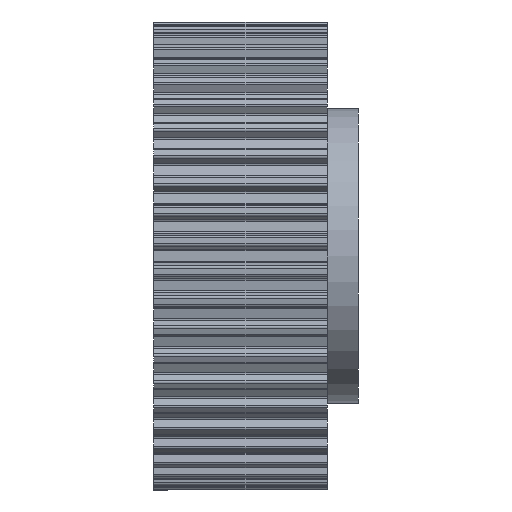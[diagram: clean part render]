
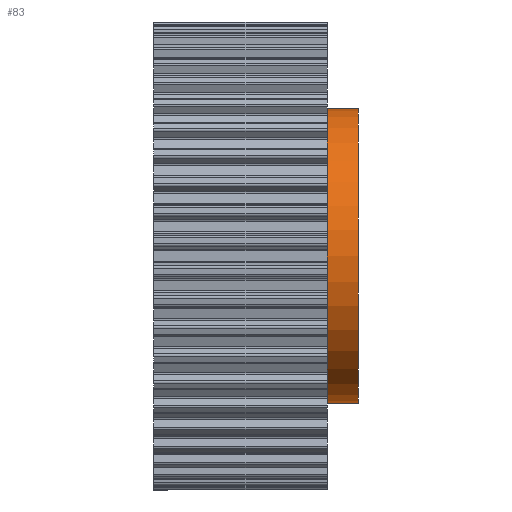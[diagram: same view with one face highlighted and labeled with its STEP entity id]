
A CAD part, front view. The second image highlights one B-rep face of the part: STEP entity #83.
In plain terms, the highlighted cylindrical face has radius 47.5 mm (diameter 95 mm), a full revolution.
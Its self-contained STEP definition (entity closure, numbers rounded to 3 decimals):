
#83 = ADVANCED_FACE( '', ( #485, #486 ), #487, .T. );
#485 = FACE_OUTER_BOUND( '', #1268, .T. );
#486 = FACE_OUTER_BOUND( '', #1269, .T. );
#487 = CYLINDRICAL_SURFACE( '', #1270, 47.5 );
#1268 = EDGE_LOOP( '', ( #2845 ) );
#1269 = EDGE_LOOP( '', ( #2846 ) );
#1270 = AXIS2_PLACEMENT_3D( '', #2847, #2848, #2849 );
#2845 = ORIENTED_EDGE( '', *, *, #6284, .T. );
#2846 = ORIENTED_EDGE( '', *, *, #6286, .F. );
#2847 = CARTESIAN_POINT( '', ( 66., 0., 0. ) );
#2848 = DIRECTION( '', ( -1., 0., 0. ) );
#2849 = DIRECTION( '', ( 0., 0., -1. ) );
#6284 = EDGE_CURVE( '', #8209, #8209, #8210, .T. );
#6286 = EDGE_CURVE( '', #8213, #8213, #8214, .T. );
#8209 = VERTEX_POINT( '', #10430 );
#8210 = CIRCLE( '', #10431, 47.5 );
#8213 = VERTEX_POINT( '', #10434 );
#8214 = CIRCLE( '', #10435, 47.5 );
#10430 = CARTESIAN_POINT( '', ( 56., 0., -47.5 ) );
#10431 = AXIS2_PLACEMENT_3D( '', #12930, #12931, #12932 );
#10434 = CARTESIAN_POINT( '', ( 66., 0., -47.5 ) );
#10435 = AXIS2_PLACEMENT_3D( '', #12936, #12937, #12938 );
#12930 = CARTESIAN_POINT( '', ( 56., 0., 0. ) );
#12931 = DIRECTION( '', ( 1., 0., 0. ) );
#12932 = DIRECTION( '', ( 0., 0., -1. ) );
#12936 = CARTESIAN_POINT( '', ( 66., 0., 0. ) );
#12937 = DIRECTION( '', ( 1., 0., 0. ) );
#12938 = DIRECTION( '', ( 0., 0., -1. ) );
